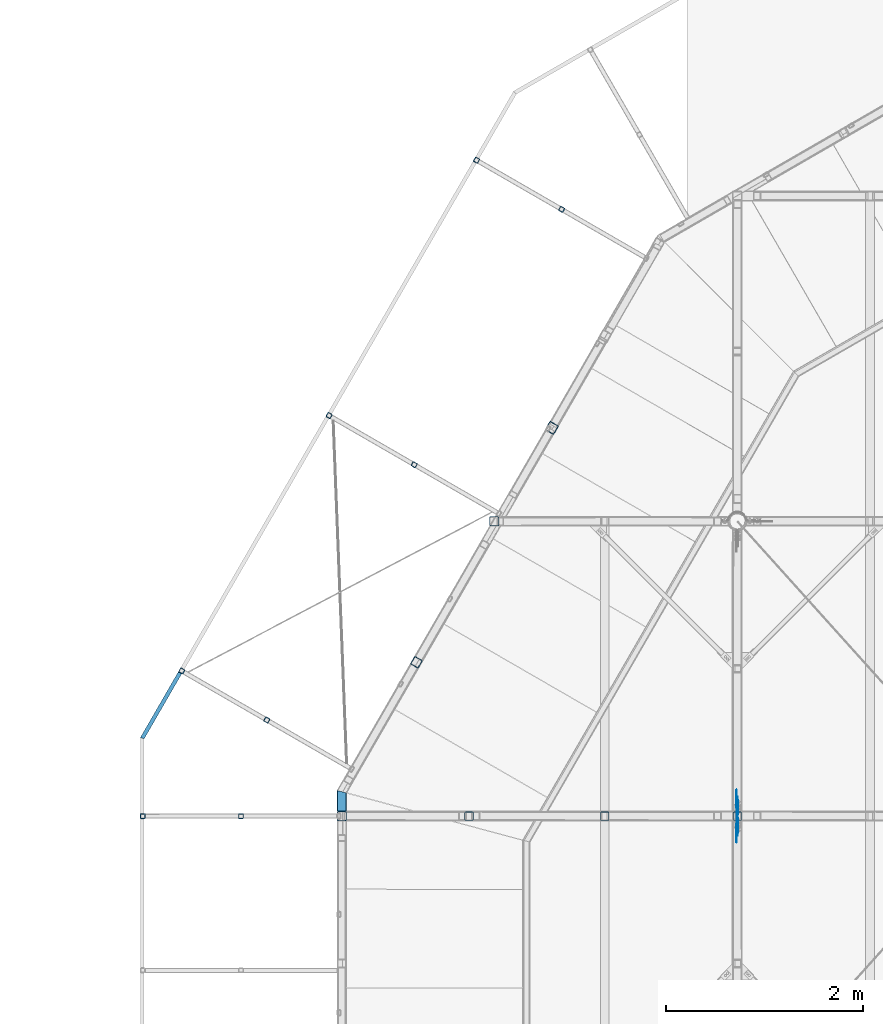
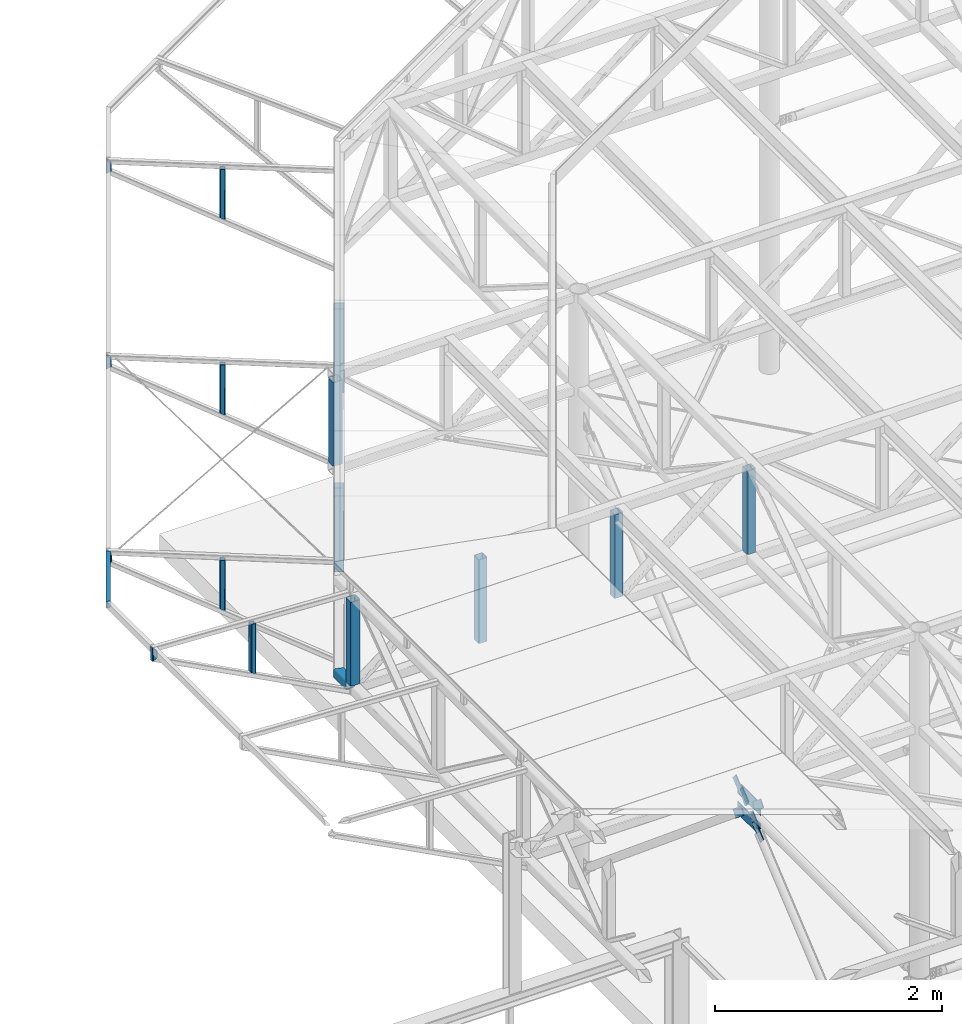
# One storey, part 85 of 132: 27 discrete accessories, 18 elements without a shape of their own.
"""IFC2X3 building model written with IfcOpenShell, lengths in millimetres."""

from ifc_helpers import new_model, si_unit, frame, origin_with_axes, origin_2d_with_axis, place, context, subcontext, project, spatial, polyline, rectangle, hollow_rectangle, u_section, outline, extrude, clip, halfspace, material, type_object, element, aggregate, save


model = new_model("IFC2X3")

# Units and contexts
model_context = context("Model", 3, precision=1e-05, world=origin_with_axes())
body_context = subcontext(model_context, "Body", "Model", "MODEL_VIEW")
ifc_project = project(units=[si_unit("LENGTHUNIT", "METRE", prefix="MILLI"), si_unit("AREAUNIT", "SQUARE_METRE"), si_unit("VOLUMEUNIT", "CUBIC_METRE"), si_unit("MASSUNIT", "GRAM", prefix="KILO"), si_unit("TIMEUNIT", "SECOND"), si_unit("PLANEANGLEUNIT", "RADIAN"), si_unit("SOLIDANGLEUNIT", "STERADIAN"), si_unit("THERMODYNAMICTEMPERATUREUNIT", "DEGREE_CELSIUS"), si_unit("LUMINOUSINTENSITYUNIT", "LUMEN")], contexts=[model_context])

# Site, building, storey
site_placement = place(None, origin_with_axes())
site = spatial("IfcSite", under=ifc_project, at=site_placement, Name="Budowa", CompositionType="ELEMENT")
building_placement = place(site_placement, origin_with_axes())
building = spatial("IfcBuilding", under=site, at=building_placement, Name="Undefined", CompositionType="ELEMENT")
storey_placement = place(building_placement, origin_with_axes())
storey = spatial("IfcBuildingStorey", under=building, at=storey_placement, Name="Undefined", CompositionType="ELEMENT", Elevation=0.0)

# Assembly, discrete accessory
assembly_1_placement = place(storey_placement, origin_with_axes())
assembly_1 = element("IfcElementAssembly", 1, at=assembly_1_placement, inside=storey, Name="Steel Assembly", AssemblyPlace="NOTDEFINED", PredefinedType="RIGID_FRAME")
ifc_material = material(Name="STEEL/S235")
discrete_accessory_type_1 = type_object("IfcDiscreteAccessoryType", Name="BLACHA")
discrete_accessory_1_placement = place(assembly_1_placement, frame((4017.00000032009, 15086.2319782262, 9988.42276315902), z_axis=(-1.0, 0.0, 0.0), x_axis=(0.0, -0.0918557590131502, 0.995772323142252)))
discrete_accessory_1 = element("IfcDiscreteAccessory", 2, at=discrete_accessory_1_placement, type_object=discrete_accessory_type_1, material=ifc_material, Name="BLACHA", ObjectType="BL8*86", context=body_context, shape_type="SweptSolid", body=[
    extrude(outline(polyline([(0.0, 0.0), (28.2842712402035, 3.27418092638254e-11), (60.8111839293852, 32.5269126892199), (60.8111839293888, 60.8111839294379), (-59.3969688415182, 181.019332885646), (-120.20815277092, 120.208152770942), (0.0, 0.0)])), frame((0.0, 0.0, -4.0), z_axis=(0.0, 0.0, 1.0), x_axis=(1.0, 0.0, 0.0)), (0.0, 0.0, 1.0), 8.0),
])
aggregate(assembly_1, [discrete_accessory_1])

assembly_2_placement = place(storey_placement, origin_with_axes())
assembly_2 = element("IfcElementAssembly", 3, at=assembly_2_placement, inside=storey, Name="Steel Assembly", AssemblyPlace="NOTDEFINED", PredefinedType="RIGID_FRAME")
discrete_accessory_2_placement = place(assembly_2_placement, frame((4017.00000032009, 14858.8019401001, 10054.5627159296), z_axis=(-1.0, 0.0, 0.0), x_axis=(0.0, 0.99577231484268, -0.091855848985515)))
discrete_accessory_2 = element("IfcDiscreteAccessory", 4, at=discrete_accessory_2_placement, type_object=discrete_accessory_type_1, material=ifc_material, Name="BLACHA", ObjectType="BL8*86", context=body_context, shape_type="SweptSolid", body=[
    extrude(outline(polyline([(0.0, 0.0), (28.2842712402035, 3.27418092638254e-11), (60.8111839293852, 32.5269126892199), (60.8111839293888, 60.8111839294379), (-59.3969688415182, 181.019332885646), (-120.20815277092, 120.208152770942), (0.0, 0.0)])), frame((0.0, 0.0, -4.0), z_axis=(0.0, 0.0, 1.0), x_axis=(1.0, 0.0, 0.0)), (0.0, 0.0, 1.0), 8.0),
])
aggregate(assembly_2, [discrete_accessory_2])

assembly_3_placement = place(storey_placement, origin_with_axes())
assembly_3 = element("IfcElementAssembly", 5, at=assembly_3_placement, inside=storey, Name="Steel Assembly", AssemblyPlace="NOTDEFINED", PredefinedType="RIGID_FRAME")
discrete_accessory_3_placement = place(assembly_3_placement, frame((4017.00000058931, 14913.769574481, 10243.5779899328), z_axis=(-1.0, 0.0, 0.0), x_axis=(0.0, 0.0918557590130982, -0.995772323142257)))
discrete_accessory_3 = element("IfcDiscreteAccessory", 6, at=discrete_accessory_3_placement, type_object=discrete_accessory_type_1, material=ifc_material, Name="BLACHA", ObjectType="BL8*86", context=body_context, shape_type="SweptSolid", body=[
    extrude(outline(polyline([(0.0, 0.0), (28.2842712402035, 3.27418092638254e-11), (60.8111839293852, 32.5269126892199), (60.8111839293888, 60.8111839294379), (-59.3969688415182, 181.019332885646), (-120.20815277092, 120.208152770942), (0.0, 0.0)])), frame((0.0, 0.0, -4.0), z_axis=(0.0, 0.0, 1.0), x_axis=(1.0, 0.0, 0.0)), (0.0, 0.0, 1.0), 8.0),
])
aggregate(assembly_3, [discrete_accessory_3])

assembly_4_placement = place(storey_placement, origin_with_axes())
assembly_4 = element("IfcElementAssembly", 7, at=assembly_4_placement, inside=storey, Name="Steel Assembly", AssemblyPlace="NOTDEFINED", PredefinedType="RIGID_FRAME")
discrete_accessory_4_placement = place(assembly_4_placement, frame((4017.00000058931, 15141.2008529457, 10177.4380375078), z_axis=(-1.0, 0.0, 0.0), x_axis=(0.0, -0.995772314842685, 0.0918558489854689)))
discrete_accessory_4 = element("IfcDiscreteAccessory", 8, at=discrete_accessory_4_placement, type_object=discrete_accessory_type_1, material=ifc_material, Name="BLACHA", ObjectType="BL8*86", context=body_context, shape_type="SweptSolid", body=[
    extrude(outline(polyline([(0.0, 0.0), (28.2842712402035, 3.27418092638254e-11), (60.8111839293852, 32.5269126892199), (60.8111839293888, 60.8111839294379), (-59.3969688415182, 181.019332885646), (-120.20815277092, 120.208152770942), (0.0, 0.0)])), frame((0.0, 0.0, -4.0), z_axis=(0.0, 0.0, 1.0), x_axis=(1.0, 0.0, 0.0)), (0.0, 0.0, 1.0), 8.0),
])
aggregate(assembly_4, [discrete_accessory_4])

# Assembly, discrete accessories
assembly_5_placement = place(storey_placement, origin_with_axes())
assembly_5 = element("IfcElementAssembly", 9, at=assembly_5_placement, inside=storey, Name="Steel Assembly", AssemblyPlace="NOTDEFINED", PredefinedType="RIGID_FRAME")
discrete_accessory_5_placement = place(assembly_5_placement, frame((4025.00000032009, 14801.7712639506, 10072.3460259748), z_axis=(-1.0, 0.0, 0.0), x_axis=(0.0, 1.0, 0.0)))
discrete_accessory_5 = element("IfcDiscreteAccessory", 10, at=discrete_accessory_5_placement, type_object=discrete_accessory_type_1, material=ifc_material, Name="BLACHA", ObjectType="BL8*133", context=body_context, shape_type="SweptSolid", body=[
    extrude(outline(polyline([(0.0, 0.0), (396.459625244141, 0.0), (396.459625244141, 58.6795501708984), (335.099731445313, 132.510192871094), (61.3598861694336, 132.510192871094), (0.0, 58.6795463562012), (0.0, 0.0)])), frame((0.0, 0.0, -4.0), z_axis=(0.0, 0.0, 1.0), x_axis=(1.0, 0.0, 0.0)), (0.0, 0.0, 1.0), 8.0),
])
discrete_accessory_6_placement = place(assembly_5_placement, frame((4025.00000058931, 15198.2315270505, 10159.654729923), z_axis=(-1.0, 0.0, 0.0), x_axis=(0.0, -1.0, 0.0)))
discrete_accessory_6 = element("IfcDiscreteAccessory", 11, at=discrete_accessory_6_placement, type_object=discrete_accessory_type_1, material=ifc_material, Name="BLACHA", ObjectType="BL8*133", context=body_context, shape_type="SweptSolid", body=[
    extrude(outline(polyline([(0.0, 0.0), (396.460845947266, 0.0), (396.460845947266, 58.6795501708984), (335.100982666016, 132.510192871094), (61.3598861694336, 132.510192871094), (0.0, 58.6795463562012), (0.0, 0.0)])), frame((0.0, 0.0, -4.0), z_axis=(0.0, 0.0, 1.0), x_axis=(1.0, 0.0, 0.0)), (0.0, 0.0, 1.0), 8.0),
])
aggregate(assembly_5, [discrete_accessory_5, discrete_accessory_6])

# Assembly, discrete accessory
assembly_6_placement = place(storey_placement, origin_with_axes())
assembly_6 = element("IfcElementAssembly", 12, at=assembly_6_placement, inside=storey, Name="Steel Assembly", AssemblyPlace="NOTDEFINED", PredefinedType="RIGID_FRAME")
discrete_accessory_7_placement = place(assembly_6_placement, frame((4033.00000000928, 14964.2782511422, 10086.3112420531), z_axis=(0.0, -0.639165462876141, 0.769069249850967), x_axis=(0.0, -0.769069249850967, -0.639165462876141)))
discrete_accessory_7 = element("IfcDiscreteAccessory", 13, at=discrete_accessory_7_placement, type_object=discrete_accessory_type_1, material=ifc_material, Name="BLACHA", ObjectType="BL8*69", context=body_context, shape_type="SweptSolid", body=[
    extrude(rectangle(XDim=8.0, YDim=69.0, at=origin_2d_with_axis()), frame((149.999999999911, 0.0, 0.0), z_axis=(-1.0, 0.0, 0.0), x_axis=(0.0, -1.0, 0.0)), (0.0, 0.0, 1.0), 150.0),
])
aggregate(assembly_6, [discrete_accessory_7])

assembly_7_placement = place(storey_placement, origin_with_axes())
assembly_7 = element("IfcElementAssembly", 14, at=assembly_7_placement, inside=storey, Name="Steel Assembly", AssemblyPlace="NOTDEFINED", PredefinedType="RIGID_FRAME")
discrete_accessory_8_placement = place(assembly_7_placement, frame((4025.00000000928, 15007.937722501, 10071.235389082), z_axis=(1.0, 0.0, 0.0), x_axis=(0.0, -0.76906919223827, 0.639165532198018)))
discrete_accessory_8 = element("IfcDiscreteAccessory", 15, at=discrete_accessory_8_placement, type_object=discrete_accessory_type_1, material=ifc_material, Name="BLACHA", ObjectType="BL8*97", context=body_context, shape_type="SweptSolid", body=[
    extrude(outline(polyline([(0.0, 0.0), (98.5107040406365, 3.63797880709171e-12), (98.5107040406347, 97.5665740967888), (20.8438243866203, 112.018440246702), (0.0, 0.0)])), frame((0.0, 0.0, -4.0), z_axis=(0.0, 0.0, 1.0), x_axis=(1.0, 0.0, 0.0)), (0.0, 0.0, 1.0), 8.0),
])

assembly_8_placement = place(storey_placement, origin_with_axes())
assembly_8 = element("IfcElementAssembly", 16, at=assembly_8_placement, inside=storey, Name="Steel Assembly", AssemblyPlace="NOTDEFINED", PredefinedType="RIGID_FRAME")
discrete_accessory_9_placement = place(assembly_8_placement, frame((4032.99999982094, 15035.7239218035, 10145.6889960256), z_axis=(0.0, 0.639165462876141, -0.769069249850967), x_axis=(0.0, 0.769069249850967, 0.639165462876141)))
discrete_accessory_9 = element("IfcDiscreteAccessory", 17, at=discrete_accessory_9_placement, type_object=discrete_accessory_type_1, material=ifc_material, Name="BLACHA", ObjectType="BL8*69", context=body_context, shape_type="SweptSolid", body=[
    extrude(rectangle(XDim=8.0, YDim=69.0, at=origin_2d_with_axis()), frame((149.999999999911, 0.0, 0.0), z_axis=(-1.0, 0.0, 0.0), x_axis=(0.0, -1.0, 0.0)), (0.0, 0.0, 1.0), 150.0),
])
aggregate(assembly_8, [discrete_accessory_9])

# Discrete accessory
discrete_accessory_10_placement = place(assembly_7_placement, frame((4024.99999982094, 14992.0644520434, 10160.7648470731), z_axis=(1.0, 0.0, 0.0), x_axis=(0.0, 0.769069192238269, -0.639165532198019)))
discrete_accessory_10 = element("IfcDiscreteAccessory", 18, at=discrete_accessory_10_placement, type_object=discrete_accessory_type_1, material=ifc_material, Name="BLACHA", ObjectType="BL8*97", context=body_context, shape_type="SweptSolid", body=[
    extrude(outline(polyline([(0.0, 0.0), (98.5107040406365, 3.63797880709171e-12), (98.5107040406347, 97.5665740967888), (20.8438243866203, 112.018440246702), (0.0, 0.0)])), frame((0.0, 0.0, -4.0), z_axis=(0.0, 0.0, 1.0), x_axis=(1.0, 0.0, 0.0)), (0.0, 0.0, 1.0), 8.0),
])

aggregate(assembly_7, [discrete_accessory_8, discrete_accessory_10])

# Assembly, discrete accessory
assembly_9_placement = place(storey_placement, origin_with_axes())
assembly_9 = element("IfcElementAssembly", 19, at=assembly_9_placement, inside=storey, Name="Steel Assembly", AssemblyPlace="NOTDEFINED", PredefinedType="RIGID_FRAME")
discrete_accessory_type_2 = type_object("IfcDiscreteAccessoryType", Name="BEAM")
discrete_accessory_11_placement = place(assembly_9_placement, frame((-1645.33313307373, 16458.9697386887, 13945.0050192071), z_axis=(0.0, 0.0, -1.0), x_axis=(-0.499968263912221, -0.86604372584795, 0.0)))
discrete_accessory_11 = element("IfcDiscreteAccessory", 20, at=discrete_accessory_11_placement, type_object=discrete_accessory_type_2, material=ifc_material, Name="BEAM", ObjectType="C70*40*4", context=body_context, shape_type="Clipping", body=[
    clip(extrude(u_section(Depth=70.0, FlangeWidth=40.0, WebThickness=4.0, FlangeThickness=4.0, FilletRadius=6.0, at=origin_2d_with_axis()), frame((801.662845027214, -3.63797880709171e-12, -1.81898940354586e-12), z_axis=(-1.0, 0.0, 0.0), x_axis=(0.0, -1.0, 0.0)), (0.0, 0.0, 1.0), 801.66), halfspace(frame((774.741922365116, 20.0000000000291, -1.81898940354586e-12), z_axis=(0.965930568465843, -0.258801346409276, 0.0), x_axis=(0.0, 0.0, -1.0)), False)),
])
aggregate(assembly_9, [discrete_accessory_11])

# Assembly, discrete accessories
assembly_10_placement = place(storey_placement, origin_with_axes())
assembly_10 = element("IfcElementAssembly", 21, at=assembly_10_placement, inside=storey, Name="Steel Assembly", AssemblyPlace="NOTDEFINED", PredefinedType="RIGID_FRAME")
discrete_accessory_12_placement = place(assembly_10_placement, frame((-762.460903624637, 15978.1510362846, 13878.94002838), z_axis=(0.499969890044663, 0.866042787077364, 0.0), x_axis=(0.0, 0.0, -1.0)))
discrete_accessory_12 = element("IfcDiscreteAccessory", 22, at=discrete_accessory_12_placement, type_object=discrete_accessory_type_2, material=ifc_material, Name="BEAM", ObjectType="SHS50*4", context=body_context, shape_type="Clipping", body=[
    clip(clip(extrude(hollow_rectangle(XDim=50.0, YDim=50.0, WallThickness=4.0, InnerFilletRadius=4.0, OuterFilletRadius=8.0, at=origin_2d_with_axis()), frame((545.085010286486, 0.0, 0.0), z_axis=(-1.0, 0.0, 0.0), x_axis=(0.0, -1.0, 0.0)), (0.0, 0.0, 1.0), 559.36), halfspace(frame((536.667324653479, -11.620388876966, 1000.0), z_axis=(-0.885407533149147, -0.464815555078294, 0.0), x_axis=(0.464815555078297, -0.885407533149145, 0.0)), True)), halfspace(frame((0.185048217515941, 1.24844042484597, 1000.0), z_axis=(0.998752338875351, 0.0499376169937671, 0.0), x_axis=(-0.0499376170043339, 0.998752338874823, 2.09020387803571e-11)), True)),
])
discrete_accessory_13_placement = place(assembly_10_placement, frame((-1628.50369069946, 16478.1209263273, 13979.9998397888), z_axis=(0.499969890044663, 0.866042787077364, 0.0), x_axis=(0.0, 0.0, -1.0)))
discrete_accessory_13 = element("IfcDiscreteAccessory", 23, at=discrete_accessory_13_placement, type_object=discrete_accessory_type_2, material=ifc_material, Name="BEAM", ObjectType="SHS50*4", context=body_context, shape_type="Clipping", body=[
    clip(clip(extrude(hollow_rectangle(XDim=50.0, YDim=50.0, WallThickness=4.0, InnerFilletRadius=4.0, OuterFilletRadius=8.0, at=origin_2d_with_axis()), frame((176.695154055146, 0.0, 0.0), z_axis=(-1.0, 0.0, 0.0), x_axis=(0.0, -1.0, 0.0)), (0.0, 0.0, 1.0), 192.23), halfspace(frame((149.999998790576, 25.0, 0.0), z_axis=(0.855808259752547, -0.517293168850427, 0.0), x_axis=(0.0, 0.0, -1.0)), False)), halfspace(frame((-0.00517939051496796, 25.0, 0.0), z_axis=(-0.689225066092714, -0.724547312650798, 2.88487317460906e-10), x_axis=(0.0, 0.0, 1.0)), False)),
])
aggregate(assembly_10, [discrete_accessory_12, discrete_accessory_13])

assembly_11_placement = place(storey_placement, origin_with_axes())
assembly_11 = element("IfcElementAssembly", 24, at=assembly_11_placement, inside=storey, Name="Steel Assembly", AssemblyPlace="NOTDEFINED", PredefinedType="RIGID_FRAME")
discrete_accessory_14_placement = place(assembly_11_placement, frame((737.443970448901, 18576.2821662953, 13878.94002838), z_axis=(0.499969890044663, 0.866042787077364, 0.0), x_axis=(0.0, 0.0, -1.0)))
discrete_accessory_14 = element("IfcDiscreteAccessory", 25, at=discrete_accessory_14_placement, type_object=discrete_accessory_type_2, material=ifc_material, Name="BEAM", ObjectType="SHS50*4", context=body_context, shape_type="Clipping", body=[
    clip(clip(extrude(hollow_rectangle(XDim=50.0, YDim=50.0, WallThickness=4.0, InnerFilletRadius=4.0, OuterFilletRadius=8.0, at=origin_2d_with_axis()), frame((545.085010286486, 0.0, 0.0), z_axis=(-1.0, 0.0, 0.0), x_axis=(0.0, -1.0, 0.0)), (0.0, 0.0, 1.0), 559.36), halfspace(frame((536.667324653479, -11.620388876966, 1000.0), z_axis=(-0.885407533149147, -0.464815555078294, 0.0), x_axis=(0.464815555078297, -0.885407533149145, 0.0)), True)), halfspace(frame((0.185048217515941, 1.24844042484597, 1000.0), z_axis=(0.998752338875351, 0.0499376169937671, 0.0), x_axis=(-0.0499376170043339, 0.998752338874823, 2.09020387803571e-11)), True)),
])
discrete_accessory_15_placement = place(assembly_11_placement, frame((-128.598816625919, 19076.252056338, 13979.9998397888), z_axis=(0.499969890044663, 0.866042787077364, 0.0), x_axis=(0.0, 0.0, -1.0)))
discrete_accessory_15 = element("IfcDiscreteAccessory", 26, at=discrete_accessory_15_placement, type_object=discrete_accessory_type_2, material=ifc_material, Name="BEAM", ObjectType="SHS50*4", context=body_context, shape_type="Clipping", body=[
    clip(clip(extrude(hollow_rectangle(XDim=50.0, YDim=50.0, WallThickness=4.0, InnerFilletRadius=4.0, OuterFilletRadius=8.0, at=origin_2d_with_axis()), frame((176.695154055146, 0.0, 0.0), z_axis=(-1.0, 0.0, 0.0), x_axis=(0.0, -1.0, 0.0)), (0.0, 0.0, 1.0), 192.23), halfspace(frame((149.999998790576, 25.0, 0.0), z_axis=(0.855808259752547, -0.517293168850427, 0.0), x_axis=(0.0, 0.0, -1.0)), False)), halfspace(frame((-0.00517939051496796, 25.0, 0.0), z_axis=(-0.689225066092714, -0.724547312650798, 2.88487317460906e-10), x_axis=(0.0, 0.0, 1.0)), False)),
])
aggregate(assembly_11, [discrete_accessory_14, discrete_accessory_15])

assembly_12_placement = place(storey_placement, origin_with_axes())
assembly_12 = element("IfcElementAssembly", 27, at=assembly_12_placement, inside=storey, Name="Steel Assembly", AssemblyPlace="NOTDEFINED", PredefinedType="RIGID_FRAME")
discrete_accessory_16_placement = place(assembly_12_placement, frame((2237.4042470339, 21174.381311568, 13878.94002838), z_axis=(0.499969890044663, 0.866042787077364, 0.0), x_axis=(0.0, 0.0, -1.0)))
discrete_accessory_16 = element("IfcDiscreteAccessory", 28, at=discrete_accessory_16_placement, type_object=discrete_accessory_type_2, material=ifc_material, Name="BEAM", ObjectType="SHS50*4", context=body_context, shape_type="Clipping", body=[
    clip(clip(extrude(hollow_rectangle(XDim=50.0, YDim=50.0, WallThickness=4.0, InnerFilletRadius=4.0, OuterFilletRadius=8.0, at=origin_2d_with_axis()), frame((545.085010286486, 0.0, 0.0), z_axis=(-1.0, 0.0, 0.0), x_axis=(0.0, -1.0, 0.0)), (0.0, 0.0, 1.0), 559.36), halfspace(frame((536.667324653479, -11.620388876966, 1000.0), z_axis=(-0.885407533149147, -0.464815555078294, 0.0), x_axis=(0.464815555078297, -0.885407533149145, 0.0)), True)), halfspace(frame((0.185048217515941, 1.24844042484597, 1000.0), z_axis=(0.998752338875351, 0.0499376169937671, 0.0), x_axis=(-0.0499376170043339, 0.998752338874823, 2.09020387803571e-11)), True)),
])
discrete_accessory_17_placement = place(assembly_12_placement, frame((1371.36145995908, 21674.3512016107, 13979.9998397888), z_axis=(0.499969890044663, 0.866042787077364, 0.0), x_axis=(0.0, 0.0, -1.0)))
discrete_accessory_17 = element("IfcDiscreteAccessory", 29, at=discrete_accessory_17_placement, type_object=discrete_accessory_type_2, material=ifc_material, Name="BEAM", ObjectType="SHS50*4", context=body_context, shape_type="Clipping", body=[
    clip(clip(extrude(hollow_rectangle(XDim=50.0, YDim=50.0, WallThickness=4.0, InnerFilletRadius=4.0, OuterFilletRadius=8.0, at=origin_2d_with_axis()), frame((176.695154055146, 0.0, 0.0), z_axis=(-1.0, 0.0, 0.0), x_axis=(0.0, -1.0, 0.0)), (0.0, 0.0, 1.0), 192.23), halfspace(frame((149.999998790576, 25.0, 0.0), z_axis=(0.855808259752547, -0.517293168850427, 0.0), x_axis=(0.0, 0.0, -1.0)), False)), halfspace(frame((-0.00517939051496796, 25.0, 0.0), z_axis=(-0.689225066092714, -0.724547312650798, 2.88487317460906e-10), x_axis=(0.0, 0.0, 1.0)), False)),
])
aggregate(assembly_12, [discrete_accessory_16, discrete_accessory_17])

assembly_13_placement = place(storey_placement, origin_with_axes())
assembly_13 = element("IfcElementAssembly", 30, at=assembly_13_placement, inside=storey, Name="Steel Assembly", AssemblyPlace="NOTDEFINED", PredefinedType="RIGID_FRAME")
discrete_accessory_18_placement = place(assembly_13_placement, frame((-1025.0003815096, 15000.0000000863, 13878.9400283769), z_axis=(0.0, 1.0, 0.0), x_axis=(0.0, 0.0, -1.0)))
discrete_accessory_18 = element("IfcDiscreteAccessory", 31, at=discrete_accessory_18_placement, type_object=discrete_accessory_type_2, material=ifc_material, Name="BEAM", ObjectType="SHS50*4", context=body_context, shape_type="Clipping", body=[
    clip(clip(extrude(hollow_rectangle(XDim=50.0, YDim=50.0, WallThickness=4.0, InnerFilletRadius=4.0, OuterFilletRadius=8.0, at=origin_2d_with_axis()), frame((545.085010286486, 0.0, 0.0), z_axis=(-1.0, 0.0, 0.0), x_axis=(0.0, -1.0, 0.0)), (0.0, 0.0, 1.0), 559.36), halfspace(frame((536.667324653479, -11.620388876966, 1000.0), z_axis=(-0.885407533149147, -0.464815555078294, 0.0), x_axis=(0.464815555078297, -0.885407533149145, 0.0)), True)), halfspace(frame((0.185048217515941, 1.24844042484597, 1000.0), z_axis=(0.998752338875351, 0.0499376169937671, 0.0), x_axis=(-0.0499376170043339, 0.998752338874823, 2.09020387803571e-11)), True)),
])
discrete_accessory_19_placement = place(assembly_13_placement, frame((-2025.0003815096, 15000.0000000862, 13979.9998397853), z_axis=(0.0, 1.0, 0.0), x_axis=(0.0, 0.0, -1.0)))
discrete_accessory_19 = element("IfcDiscreteAccessory", 32, at=discrete_accessory_19_placement, type_object=discrete_accessory_type_2, material=ifc_material, Name="BEAM", ObjectType="SHS50*4", context=body_context, shape_type="Clipping", body=[
    clip(clip(extrude(hollow_rectangle(XDim=50.0, YDim=50.0, WallThickness=4.0, InnerFilletRadius=4.0, OuterFilletRadius=8.0, at=origin_2d_with_axis()), frame((176.695154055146, 0.0, 0.0), z_axis=(-1.0, 0.0, 0.0), x_axis=(0.0, -1.0, 0.0)), (0.0, 0.0, 1.0), 192.23), halfspace(frame((149.999998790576, 25.0, 0.0), z_axis=(0.855808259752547, -0.517293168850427, 0.0), x_axis=(0.0, 0.0, -1.0)), False)), halfspace(frame((-0.00517939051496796, 25.0, 0.0), z_axis=(-0.689225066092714, -0.724547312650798, 2.88487317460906e-10), x_axis=(0.0, 0.0, 1.0)), False)),
])
aggregate(assembly_13, [discrete_accessory_18, discrete_accessory_19])

assembly_14_placement = place(storey_placement, origin_with_axes())
assembly_14 = element("IfcElementAssembly", 33, at=assembly_14_placement, inside=storey, Name="Steel Assembly", AssemblyPlace="NOTDEFINED", PredefinedType="RIGID_FRAME")
discrete_accessory_20_placement = place(assembly_14_placement, frame((760.301211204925, 16565.5651198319, 12880.0), z_axis=(0.0, 0.0, 1.0), x_axis=(-0.500000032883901, -0.866025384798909, 0.0)))
discrete_accessory_20 = element("IfcDiscreteAccessory", 34, at=discrete_accessory_20_placement, type_object=discrete_accessory_type_2, material=ifc_material, Name="BEAM", ObjectType="SHS90*4", context=body_context, shape_type="Clipping", body=[
    clip(clip(extrude(hollow_rectangle(XDim=90.0, YDim=90.0, WallThickness=4.0, InnerFilletRadius=4.0, OuterFilletRadius=8.0, at=origin_2d_with_axis()), frame((0.0, 0.0, 900.0), z_axis=(0.0, 0.0, -1.0), x_axis=(0.0, 1.0, 0.0)), (0.0, 0.0, 1.0), 900.0), halfspace(frame((1000.0, 0.0, 900.0), z_axis=(0.0, 0.0, -1.0), x_axis=(0.0, 1.0, 0.0)), True)), halfspace(frame((1000.0, 0.0, 0.0), z_axis=(0.0, 0.0, 1.0), x_axis=(0.0, -1.0, 0.0)), True)),
])
discrete_accessory_21_placement = place(assembly_14_placement, frame((-0.000107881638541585, 15262.0821808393, 12830.0), z_axis=(-1.0, 0.0, 0.0), x_axis=(0.0, -1.0, 0.0)))
discrete_accessory_21 = element("IfcDiscreteAccessory", 35, at=discrete_accessory_21_placement, type_object=discrete_accessory_type_2, material=ifc_material, Name="BEAM", ObjectType="SHS100*8", context=body_context, shape_type="Clipping", body=[
    clip(extrude(hollow_rectangle(XDim=100.0, YDim=100.0, WallThickness=8.0, InnerFilletRadius=8.0, OuterFilletRadius=16.0, at=origin_2d_with_axis()), frame((212.282180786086, 0.0, 0.0), z_axis=(-1.0, 0.0, 0.0), x_axis=(0.0, -1.0, 0.0)), (0.0, 0.0, 1.0), 212.42), halfspace(frame((-1.38836367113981e-06, 0.0, 50.0), z_axis=(0.965925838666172, 0.0, 0.258818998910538), x_axis=(0.0, 1.0, 0.0)), True)),
])
aggregate(assembly_14, [discrete_accessory_20, discrete_accessory_21])

# Assembly, discrete accessory
assembly_15_placement = place(storey_placement, origin_with_axes())
assembly_15 = element("IfcElementAssembly", 36, at=assembly_15_placement, inside=storey, Name="Steel Assembly", AssemblyPlace="NOTDEFINED", PredefinedType="RIGID_FRAME")
discrete_accessory_22_placement = place(assembly_15_placement, frame((2137.18331358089, 18950.5947738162, 12879.9999999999), z_axis=(0.0, 0.0, 1.0), x_axis=(-0.86602545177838, 0.499999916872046, 0.0)))
discrete_accessory_22 = element("IfcDiscreteAccessory", 37, at=discrete_accessory_22_placement, type_object=discrete_accessory_type_2, material=ifc_material, Name="BEAM", ObjectType="SHS100*4", context=body_context, shape_type="Clipping", body=[
    clip(clip(extrude(hollow_rectangle(XDim=100.0, YDim=100.0, WallThickness=4.0, InnerFilletRadius=4.0, OuterFilletRadius=8.0, at=origin_2d_with_axis()), frame((0.0, 0.0, 900.0), z_axis=(0.0, 0.0, -1.0), x_axis=(0.0, 1.0, 0.0)), (0.0, 0.0, 1.0), 900.0), halfspace(frame((1000.0, 0.0, 900.0), z_axis=(0.0, 0.0, -1.0), x_axis=(0.0, 1.0, 0.0)), True)), halfspace(frame((1000.0, 0.0, 0.0), z_axis=(0.0, 0.0, 1.0), x_axis=(0.0, -1.0, 0.0)), True)),
])
aggregate(assembly_15, [discrete_accessory_22])

assembly_16_placement = place(storey_placement, origin_with_axes())
assembly_16 = element("IfcElementAssembly", 38, at=assembly_16_placement, inside=storey, Name="Steel Assembly", AssemblyPlace="NOTDEFINED", PredefinedType="RIGID_FRAME")
discrete_accessory_23_placement = place(assembly_16_placement, frame((1552.09999980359, 18000.000000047, 13780.0), z_axis=(1.0, 0.0, 0.0), x_axis=(0.0, 0.0, -1.0)))
discrete_accessory_23 = element("IfcDiscreteAccessory", 39, at=discrete_accessory_23_placement, type_object=discrete_accessory_type_2, material=ifc_material, Name="BEAM", ObjectType="SHS100*8", context=body_context, shape_type="Clipping", body=[
    clip(clip(extrude(hollow_rectangle(XDim=100.0, YDim=100.0, WallThickness=8.0, InnerFilletRadius=8.0, OuterFilletRadius=16.0, at=origin_2d_with_axis()), frame((900.0, 0.0, 0.0), z_axis=(-1.0, 0.0, 0.0), x_axis=(0.0, -1.0, 0.0)), (0.0, 0.0, 1.0), 900.0), halfspace(frame((900.0, 0.0, 1000.0), z_axis=(-1.0, 0.0, 0.0), x_axis=(0.0, -1.0, 0.0)), True)), halfspace(frame((0.0, 0.0, 1000.0), z_axis=(1.0, 0.0, 0.0), x_axis=(0.0, 1.0, 0.0)), True)),
])
aggregate(assembly_16, [discrete_accessory_23])

# Assembly, discrete accessories
assembly_17_placement = place(storey_placement, origin_with_axes())
assembly_17 = element("IfcElementAssembly", 40, at=assembly_17_placement, inside=storey, Name="Steel Assembly", AssemblyPlace="NOTDEFINED", PredefinedType="RIGID_FRAME")
discrete_accessory_24_placement = place(assembly_17_placement, frame((2676.09999996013, 15000.000000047, 13780.0), z_axis=(1.0, 0.0, 0.0), x_axis=(0.0, 0.0, -1.0)))
discrete_accessory_24 = element("IfcDiscreteAccessory", 41, at=discrete_accessory_24_placement, type_object=discrete_accessory_type_2, material=ifc_material, Name="BEAM", ObjectType="SHS90*6", context=body_context, shape_type="Clipping", body=[
    clip(clip(extrude(hollow_rectangle(XDim=90.0, YDim=90.0, WallThickness=6.0, InnerFilletRadius=6.0, OuterFilletRadius=12.0, at=origin_2d_with_axis()), frame((900.0, 0.0, 0.0), z_axis=(-1.0, 0.0, 0.0), x_axis=(0.0, -1.0, 0.0)), (0.0, 0.0, 1.0), 900.0), halfspace(frame((900.0, 0.0, 1000.0), z_axis=(-1.0, 0.0, 0.0), x_axis=(0.0, -1.0, 0.0)), True)), halfspace(frame((0.0, 0.0, 1000.0), z_axis=(1.0, 0.0, 0.0), x_axis=(0.0, 1.0, 0.0)), True)),
])
discrete_accessory_25_placement = place(assembly_17_placement, frame((1295.09999996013, 15000.000000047, 13780.0), z_axis=(1.0, 0.0, 0.0), x_axis=(0.0, 0.0, -1.0)))
discrete_accessory_25 = element("IfcDiscreteAccessory", 42, at=discrete_accessory_25_placement, type_object=discrete_accessory_type_2, material=ifc_material, Name="BEAM", ObjectType="SHS90*6", context=body_context, shape_type="Clipping", body=[
    clip(clip(extrude(hollow_rectangle(XDim=90.0, YDim=90.0, WallThickness=6.0, InnerFilletRadius=6.0, OuterFilletRadius=12.0, at=origin_2d_with_axis()), frame((900.0, 0.0, 0.0), z_axis=(-1.0, 0.0, 0.0), x_axis=(0.0, -1.0, 0.0)), (0.0, 0.0, 1.0), 900.0), halfspace(frame((900.0, 0.0, 1000.0), z_axis=(-1.0, 0.0, 0.0), x_axis=(0.0, -1.0, 0.0)), True)), halfspace(frame((0.0, 0.0, 1000.0), z_axis=(1.0, 0.0, 0.0), x_axis=(0.0, 1.0, 0.0)), True)),
])
discrete_accessory_26_placement = place(assembly_17_placement, frame((0.0999999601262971, 15000.000000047, 13780.0), z_axis=(1.0, 0.0, 0.0), x_axis=(0.0, 0.0, -1.0)))
discrete_accessory_26 = element("IfcDiscreteAccessory", 43, at=discrete_accessory_26_placement, type_object=discrete_accessory_type_2, material=ifc_material, Name="BEAM", ObjectType="SHS100*8", context=body_context, shape_type="Clipping", body=[
    clip(clip(extrude(hollow_rectangle(XDim=100.0, YDim=100.0, WallThickness=8.0, InnerFilletRadius=8.0, OuterFilletRadius=16.0, at=origin_2d_with_axis()), frame((900.0, 0.0, 0.0), z_axis=(-1.0, 0.0, 0.0), x_axis=(0.0, -1.0, 0.0)), (0.0, 0.0, 1.0), 900.0), halfspace(frame((900.0, 0.0, 1000.0), z_axis=(-1.0, 0.0, 0.0), x_axis=(0.0, -1.0, 0.0)), True)), halfspace(frame((0.0, 0.0, 1000.0), z_axis=(1.0, 0.0, 0.0), x_axis=(0.0, 1.0, 0.0)), True)),
])
aggregate(assembly_17, [discrete_accessory_24, discrete_accessory_25, discrete_accessory_26])

# Assembly, discrete accessory
assembly_18_placement = place(storey_placement, origin_with_axes())
assembly_18 = element("IfcElementAssembly", 44, at=assembly_18_placement, inside=storey, Name="Steel Assembly", AssemblyPlace="NOTDEFINED", PredefinedType="RIGID_FRAME")
discrete_accessory_27_placement = place(assembly_18_placement, frame((4024.99999991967, 15000.000000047, 13780.0), z_axis=(1.0, 0.0, 0.0), x_axis=(0.0, 0.0, -1.0)))
discrete_accessory_27 = element("IfcDiscreteAccessory", 45, at=discrete_accessory_27_placement, type_object=discrete_accessory_type_2, material=ifc_material, Name="BEAM", ObjectType="SHS90*6", context=body_context, shape_type="Clipping", body=[
    clip(clip(extrude(hollow_rectangle(XDim=90.0, YDim=90.0, WallThickness=6.0, InnerFilletRadius=6.0, OuterFilletRadius=12.0, at=origin_2d_with_axis()), frame((900.0, 0.0, 0.0), z_axis=(-1.0, 0.0, 0.0), x_axis=(0.0, -1.0, 0.0)), (0.0, 0.0, 1.0), 900.0), halfspace(frame((900.0, 0.0, 1000.0), z_axis=(-1.0, 0.0, 0.0), x_axis=(0.0, -1.0, 0.0)), True)), halfspace(frame((0.0, 0.0, 1000.0), z_axis=(1.0, 0.0, 0.0), x_axis=(0.0, 1.0, 0.0)), True)),
])
aggregate(assembly_18, [discrete_accessory_27])

save(model, "model.ifc")
